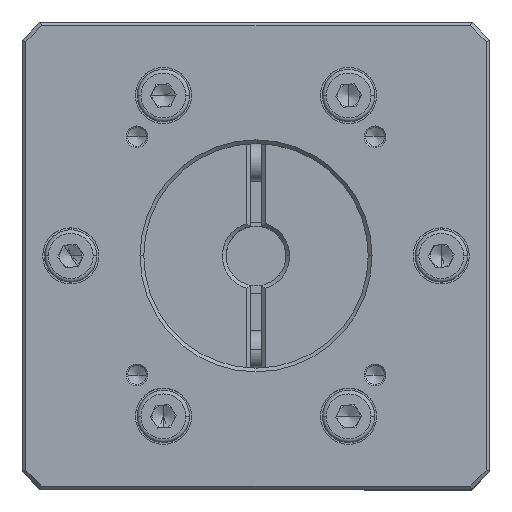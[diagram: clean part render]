
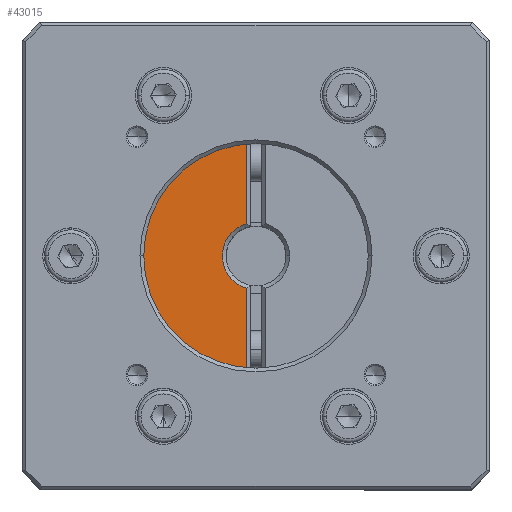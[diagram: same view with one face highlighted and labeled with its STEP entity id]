
A CAD part, top view. The second image highlights one B-rep face of the part: STEP entity #43015.
In plain terms, the highlighted planar face has unit normal (0, 0, 1).
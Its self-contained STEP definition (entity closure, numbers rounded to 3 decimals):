
#519 = CIRCLE ( 'NONE', #74082, 17. ) ;
#3878 = LINE ( 'NONE', #35966, #98713 ) ;
#4487 = AXIS2_PLACEMENT_3D ( 'NONE', #44875, #109184, #54137 ) ;
#11529 = CARTESIAN_POINT ( 'NONE',  ( -43.938, 10.264, 185.502 ) ) ;
#12733 = VERTEX_POINT ( 'NONE', #27463 ) ;
#22873 = EDGE_LOOP ( 'NONE', ( #93636, #48535, #90256, #46662, #104163 ) ) ;
#23957 = EDGE_CURVE ( 'NONE', #38709, #12733, #57402, .T. ) ;
#27463 = CARTESIAN_POINT ( 'NONE',  ( -28.188, 5.941, 185.502 ) ) ;
#27557 = AXIS2_PLACEMENT_3D ( 'NONE', #49505, #113827, #58785 ) ;
#29347 = FACE_OUTER_BOUND ( 'NONE', #22873, .T. ) ;
#30883 = VERTEX_POINT ( 'NONE', #74057 ) ;
#32745 = EDGE_CURVE ( 'NONE', #90425, #30883, #3878, .T. ) ;
#34574 = AXIS2_PLACEMENT_3D ( 'NONE', #91465, #36342, #100643 ) ;
#35377 = VERTEX_POINT ( 'NONE', #11529 ) ;
#35966 = CARTESIAN_POINT ( 'NONE',  ( -28.188, -8.922, 185.502 ) ) ;
#36342 = DIRECTION ( 'NONE',  ( 0., 0., 1. ) ) ;
#38709 = VERTEX_POINT ( 'NONE', #106038 ) ;
#43015 = ADVANCED_FACE ( 'NONE', ( #29347 ), #108772, .F. ) ;
#44875 = CARTESIAN_POINT ( 'NONE',  ( -26.938, 27.764, 185.502 ) ) ;
#45192 = DIRECTION ( 'NONE',  ( 0., 1., 0. ) ) ;
#46662 = ORIENTED_EDGE ( 'NONE', *, *, #32745, .T. ) ;
#48535 = ORIENTED_EDGE ( 'NONE', *, *, #23957, .T. ) ;
#49505 = CARTESIAN_POINT ( 'NONE',  ( -26.938, 10.264, 185.502 ) ) ;
#49749 = DIRECTION ( 'NONE',  ( 0., 0., -1. ) ) ;
#54137 = DIRECTION ( 'NONE',  ( -1., 0., 0. ) ) ;
#57402 = LINE ( 'NONE', #94986, #78908 ) ;
#58785 = DIRECTION ( 'NONE',  ( -1., 0., 0. ) ) ;
#60738 = EDGE_CURVE ( 'NONE', #38709, #35377, #519, .T. ) ;
#72674 = CARTESIAN_POINT ( 'NONE',  ( -28.188, 14.587, 185.502 ) ) ;
#73058 = CIRCLE ( 'NONE', #34574, 4.5 ) ;
#74057 = CARTESIAN_POINT ( 'NONE',  ( -28.188, 27.218, 185.502 ) ) ;
#74082 = AXIS2_PLACEMENT_3D ( 'NONE', #104834, #49749, #114065 ) ;
#78351 = CIRCLE ( 'NONE', #27557, 17. ) ;
#78908 = VECTOR ( 'NONE', #113459, 1000. ) ;
#90256 = ORIENTED_EDGE ( 'NONE', *, *, #100506, .F. ) ;
#90425 = VERTEX_POINT ( 'NONE', #72674 ) ;
#91465 = CARTESIAN_POINT ( 'NONE',  ( -26.938, 10.264, 185.502 ) ) ;
#93636 = ORIENTED_EDGE ( 'NONE', *, *, #60738, .F. ) ;
#94986 = CARTESIAN_POINT ( 'NONE',  ( -28.188, -8.922, 185.502 ) ) ;
#98713 = VECTOR ( 'NONE', #45192, 1000. ) ;
#100506 = EDGE_CURVE ( 'NONE', #90425, #12733, #73058, .T. ) ;
#100643 = DIRECTION ( 'NONE',  ( 0., 1., 0. ) ) ;
#104163 = ORIENTED_EDGE ( 'NONE', *, *, #111444, .F. ) ;
#104834 = CARTESIAN_POINT ( 'NONE',  ( -26.938, 10.264, 185.502 ) ) ;
#106038 = CARTESIAN_POINT ( 'NONE',  ( -28.188, -6.69, 185.502 ) ) ;
#108772 = PLANE ( 'NONE',  #4487 ) ;
#109184 = DIRECTION ( 'NONE',  ( 0., 0., -1. ) ) ;
#111444 = EDGE_CURVE ( 'NONE', #35377, #30883, #78351, .T. ) ;
#113459 = DIRECTION ( 'NONE',  ( 0., 1., 0. ) ) ;
#113827 = DIRECTION ( 'NONE',  ( 0., 0., -1. ) ) ;
#114065 = DIRECTION ( 'NONE',  ( -1., 0., 0. ) ) ;
